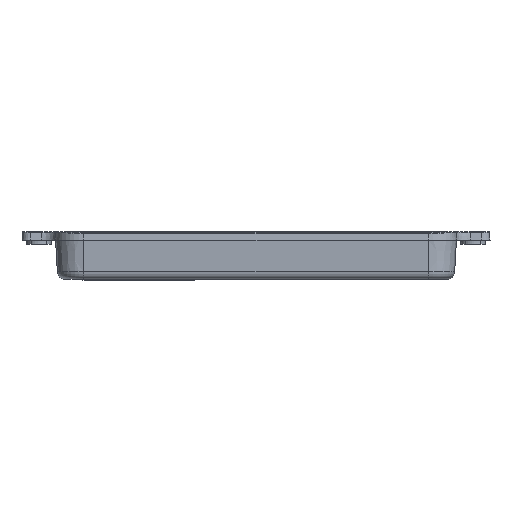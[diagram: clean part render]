
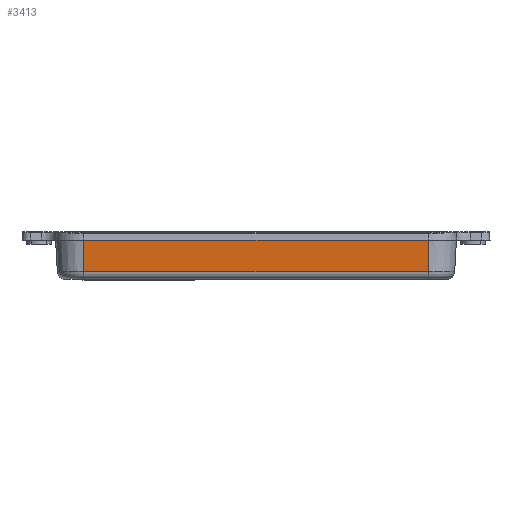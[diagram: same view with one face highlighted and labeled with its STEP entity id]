
A CAD part, left-side view. The second image highlights one B-rep face of the part: STEP entity #3413.
In plain terms, the highlighted planar face has unit normal (-0.999, 0, -0.052).
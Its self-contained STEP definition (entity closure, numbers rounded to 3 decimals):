
#2789=DIRECTION('',(0.,1.,0.));
#2790=VECTOR('',#2789,123.011);
#2791=CARTESIAN_POINT('',(-41.5,-61.505,
0.));
#2792=LINE('',#2791,#2790);
#2953=DIRECTION('',(0.052,0.,-0.999));
#2954=VECTOR('',#2953,11.172);
#2955=CARTESIAN_POINT('',(-41.5,61.506,
0.));
#2956=LINE('',#2955,#2954);
#2967=DIRECTION('',(0.,-1.,0.));
#2968=VECTOR('',#2967,123.012);
#2969=CARTESIAN_POINT('',(-40.915,61.506,
-11.157));
#2970=LINE('',#2969,#2968);
#2998=DIRECTION('',(-0.052,0.,0.999));
#2999=VECTOR('',#2998,11.172);
#3000=CARTESIAN_POINT('',(-40.915,-61.506,
-11.157));
#3001=LINE('',#3000,#2999);
#3044=CARTESIAN_POINT('',(-41.5,-61.504,
0.));
#3045=VERTEX_POINT('',#3044);
#3046=CARTESIAN_POINT('',(-41.5,61.506,
0.));
#3047=VERTEX_POINT('',#3046);
#3056=CARTESIAN_POINT('',(-40.915,61.506,
-11.157));
#3057=VERTEX_POINT('',#3056);
#3058=CARTESIAN_POINT('',(-40.915,-61.506,
-11.157));
#3059=VERTEX_POINT('',#3058);
#3400=CARTESIAN_POINT('',(-41.5,77.569,0.));
#3401=DIRECTION('',(-0.999,0.,-0.052));
#3402=DIRECTION('',(0.,-1.,0.));
#3403=AXIS2_PLACEMENT_3D('',#3400,#3401,#3402);
#3404=PLANE('',#3403);
#3406=ORIENTED_EDGE('',*,*,#3405,.F.);
#3407=ORIENTED_EDGE('',*,*,#3383,.F.);
#3408=ORIENTED_EDGE('',*,*,#3161,.F.);
#3410=ORIENTED_EDGE('',*,*,#3409,.F.);
#3411=EDGE_LOOP('',(#3406,#3407,#3408,#3410));
#3412=FACE_OUTER_BOUND('',#3411,.F.);
#3413=ADVANCED_FACE('',(#3412),#3404,.T.);
#3161=EDGE_CURVE('',#3045,#3047,#2792,.T.);
#3383=EDGE_CURVE('',#3047,#3057,#2956,.T.);
#3405=EDGE_CURVE('',#3057,#3059,#2970,.T.);
#3409=EDGE_CURVE('',#3059,#3045,#3001,.T.);
